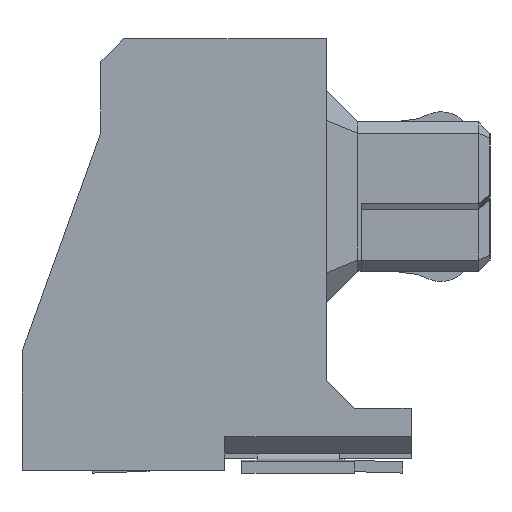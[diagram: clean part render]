
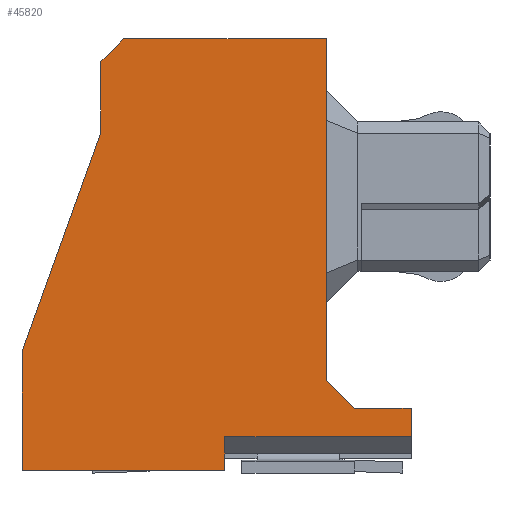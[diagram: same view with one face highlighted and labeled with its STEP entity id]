
A CAD part, left-side view. The second image highlights one B-rep face of the part: STEP entity #45820.
In plain terms, the highlighted planar face has unit normal (-1, 0, 0) as drawn and (0, 0, 1) by its records, which use the part's own axes.
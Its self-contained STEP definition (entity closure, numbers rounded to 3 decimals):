
#26980=CARTESIAN_POINT('',(24.287,-57.914,28.5));
#26990=VERTEX_POINT('',#26980);
#27020=CARTESIAN_POINT('',(45.103,0.,28.5));
#27030=DIRECTION('',(0.338,0.941,0.));
#27040=VECTOR('',#27030,1.);
#27050=LINE('',#27020,#27040);
#27060=CARTESIAN_POINT('',(22.887,-61.809,28.5));
#27070=VERTEX_POINT('',#27060);
#27080=EDGE_CURVE('',#27070,#26990,#27050,.T.);
#28550=CARTESIAN_POINT('',(29.787,-62.809,28.5));
#28560=VERTEX_POINT('',#28550);
#28590=CARTESIAN_POINT('',(0.,-62.809,28.5));
#28600=DIRECTION('',(1.,0.,0.));
#28610=VECTOR('',#28600,1.);
#28620=LINE('',#28590,#28610);
#28630=CARTESIAN_POINT('',(28.787,-62.809,28.5));
#28640=VERTEX_POINT('',#28630);
#28650=EDGE_CURVE('',#28640,#28560,#28620,.T.);
#37310=CARTESIAN_POINT('',(24.287,-56.659,28.5));
#37320=VERTEX_POINT('',#37310);
#37350=CARTESIAN_POINT('',(24.287,0.,28.5));
#37360=DIRECTION('',(0.,1.,0.));
#37370=VECTOR('',#37360,1.);
#37380=LINE('',#37350,#37370);
#37390=EDGE_CURVE('',#26990,#37320,#37380,.T.);
#39520=CARTESIAN_POINT('',(26.487,0.,28.5));
#39530=DIRECTION('',(0.,-1.,0.));
#39540=VECTOR('',#39530,1.);
#39550=LINE('',#39520,#39540);
#39560=CARTESIAN_POINT('',(26.487,-63.314,28.5));
#39570=VERTEX_POINT('',#39560);
#39580=CARTESIAN_POINT('',(26.487,-63.909,28.5));
#39590=VERTEX_POINT('',#39580);
#39600=EDGE_CURVE('',#39570,#39590,#39550,.T.);
#45130=CARTESIAN_POINT('',(22.714,-64.1,28.5));
#45140=DIRECTION('',(0.,0.,1.));
#45150=DIRECTION('',(1.,0.,0.));
#45160=AXIS2_PLACEMENT_3D('',#45130,#45140,#45150);
#45170=PLANE('',#45160);
#45180=CARTESIAN_POINT('',(22.887,0.,28.5));
#45190=DIRECTION('',(0.,1.,0.));
#45200=VECTOR('',#45190,1.);
#45210=LINE('',#45180,#45200);
#45220=CARTESIAN_POINT('',(22.887,-63.909,28.5));
#45230=VERTEX_POINT('',#45220);
#45240=EDGE_CURVE('',#45230,#27070,#45210,.T.);
#45250=ORIENTED_EDGE('',*,*,#45240,.F.);
#45260=ORIENTED_EDGE('',*,*,#27080,.F.);
#45270=ORIENTED_EDGE('',*,*,#37390,.F.);
#45280=CARTESIAN_POINT('',(80.946,0.,28.5));
#45290=DIRECTION('',(0.707,0.707,0.));
#45300=VECTOR('',#45290,1.);
#45310=LINE('',#45280,#45300);
#45320=CARTESIAN_POINT('',(24.687,-56.259,28.5));
#45330=VERTEX_POINT('',#45320);
#45340=EDGE_CURVE('',#37320,#45330,#45310,.T.);
#45350=ORIENTED_EDGE('',*,*,#45340,.F.);
#45360=CARTESIAN_POINT('',(0.,-56.259,28.5));
#45370=DIRECTION('',(1.,0.,0.));
#45380=VECTOR('',#45370,1.);
#45390=LINE('',#45360,#45380);
#45400=CARTESIAN_POINT('',(28.287,-56.259,28.5));
#45410=VERTEX_POINT('',#45400);
#45420=EDGE_CURVE('',#45330,#45410,#45390,.T.);
#45430=ORIENTED_EDGE('',*,*,#45420,.F.);
#45440=CARTESIAN_POINT('',(28.287,0.,28.5));
#45450=DIRECTION('',(0.,1.,0.));
#45460=VECTOR('',#45450,1.);
#45470=LINE('',#45440,#45460);
#45480=CARTESIAN_POINT('',(28.287,-62.309,28.5));
#45490=VERTEX_POINT('',#45480);
#45500=EDGE_CURVE('',#45490,#45410,#45470,.T.);
#45510=ORIENTED_EDGE('',*,*,#45500,.T.);
#45520=CARTESIAN_POINT('',(0.,-34.023,28.5));
#45530=DIRECTION('',(0.707,-0.707,0.));
#45540=VECTOR('',#45530,1.);
#45550=LINE('',#45520,#45540);
#45560=EDGE_CURVE('',#45490,#28640,#45550,.T.);
#45570=ORIENTED_EDGE('',*,*,#45560,.F.);
#45580=ORIENTED_EDGE('',*,*,#28650,.F.);
#45590=CARTESIAN_POINT('',(29.787,0.,28.5));
#45600=DIRECTION('',(0.,-1.,0.));
#45610=VECTOR('',#45600,1.);
#45620=LINE('',#45590,#45610);
#45630=CARTESIAN_POINT('',(29.787,-63.314,28.5));
#45640=VERTEX_POINT('',#45630);
#45650=EDGE_CURVE('',#28560,#45640,#45620,.T.);
#45660=ORIENTED_EDGE('',*,*,#45650,.F.);
#45670=CARTESIAN_POINT('',(0.,-63.314,28.5));
#45680=DIRECTION('',(1.,0.,0.));
#45690=VECTOR('',#45680,1.);
#45700=LINE('',#45670,#45690);
#45710=EDGE_CURVE('',#39570,#45640,#45700,.T.);
#45720=ORIENTED_EDGE('',*,*,#45710,.T.);
#45730=ORIENTED_EDGE('',*,*,#39600,.F.);
#45740=CARTESIAN_POINT('',(0.,-63.909,28.5));
#45750=DIRECTION('',(1.,0.,-0.));
#45760=VECTOR('',#45750,1.);
#45770=LINE('',#45740,#45760);
#45780=EDGE_CURVE('',#45230,#39590,#45770,.T.);
#45790=ORIENTED_EDGE('',*,*,#45780,.T.);
#45800=EDGE_LOOP('',(#45790,#45730,#45720,#45660,#45580,#45570,#45510,
#45430,#45350,#45270,#45260,#45250));
#45810=FACE_OUTER_BOUND('',#45800,.T.);
#45820=ADVANCED_FACE('',(#45810),#45170,.T.);
